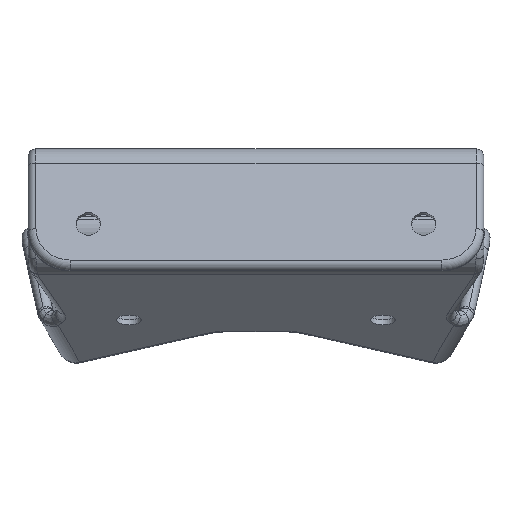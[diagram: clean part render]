
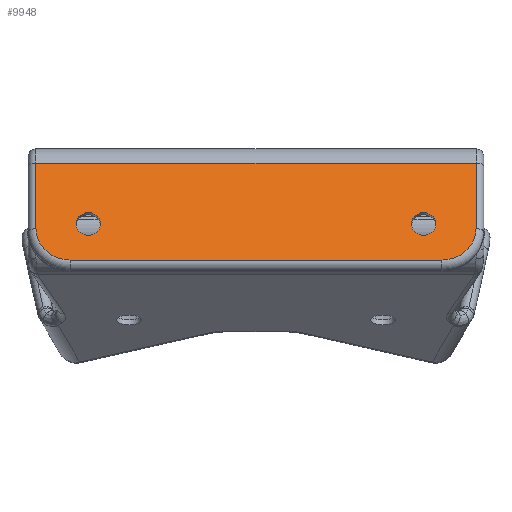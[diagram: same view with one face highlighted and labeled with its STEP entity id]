
A CAD part, top view. The second image highlights one B-rep face of the part: STEP entity #9948.
In plain terms, the highlighted planar face has unit normal (0, 0.391, 0.92).
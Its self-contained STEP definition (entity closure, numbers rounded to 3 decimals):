
#266 = FACE_BOUND ( 'NONE', #7578, .T. ) ;
#306 = VERTEX_POINT ( 'NONE', #4858 ) ;
#317 = LINE ( 'NONE', #11242, #10238 ) ;
#336 = EDGE_CURVE ( 'NONE', #2415, #3159, #4036, .T. ) ;
#1261 = FACE_OUTER_BOUND ( 'NONE', #6625, .T. ) ;
#1279 = ORIENTED_EDGE ( 'NONE', *, *, #6893, .T. ) ;
#1460 = EDGE_CURVE ( 'NONE', #306, #306, #10214, .T. ) ;
#2026 = DIRECTION ( 'NONE',  ( 0., 0.391, 0.921 ) ) ;
#2056 = VECTOR ( 'NONE', #11556, 1000. ) ;
#2301 = CARTESIAN_POINT ( 'NONE',  ( 0., -7.141, 108.17 ) ) ;
#2326 = VERTEX_POINT ( 'NONE', #3662 ) ;
#2415 = VERTEX_POINT ( 'NONE', #10171 ) ;
#2624 = DIRECTION ( 'NONE',  ( 0., 0.921, -0.391 ) ) ;
#2681 = CIRCLE ( 'NONE', #8979, 2.35 ) ;
#2917 = DIRECTION ( 'NONE',  ( 0., -0.391, -0.921 ) ) ;
#2952 = CARTESIAN_POINT ( 'NONE',  ( 35.5, -7.141, 108.17 ) ) ;
#3019 = ORIENTED_EDGE ( 'NONE', *, *, #8302, .T. ) ;
#3020 = VERTEX_POINT ( 'NONE', #10253 ) ;
#3159 = VERTEX_POINT ( 'NONE', #10554 ) ;
#3222 = CARTESIAN_POINT ( 'NONE',  ( -42., 11.347, 100.322 ) ) ;
#3610 = DIRECTION ( 'NONE',  ( 0., -0.391, -0.921 ) ) ;
#3662 = CARTESIAN_POINT ( 'NONE',  ( -35.5, -7.141, 108.17 ) ) ;
#3717 = CARTESIAN_POINT ( 'NONE',  ( -32., -0.237, 105.24 ) ) ;
#4036 = LINE ( 'NONE', #5247, #8481 ) ;
#4342 = EDGE_CURVE ( 'NONE', #3159, #4998, #9135, .T. ) ;
#4429 = ORIENTED_EDGE ( 'NONE', *, *, #336, .F. ) ;
#4684 = AXIS2_PLACEMENT_3D ( 'NONE', #4883, #2917, #11130 ) ;
#4697 = DIRECTION ( 'NONE',  ( 0., 0.921, -0.391 ) ) ;
#4858 = CARTESIAN_POINT ( 'NONE',  ( 32., 1.926, 104.321 ) ) ;
#4883 = CARTESIAN_POINT ( 'NONE',  ( 0., 37.815, 89.087 ) ) ;
#4998 = VERTEX_POINT ( 'NONE', #2952 ) ;
#5052 = ORIENTED_EDGE ( 'NONE', *, *, #4342, .F. ) ;
#5177 = LINE ( 'NONE', #10645, #2056 ) ;
#5247 = CARTESIAN_POINT ( 'NONE',  ( 42., -1.158, 105.63 ) ) ;
#5413 = ORIENTED_EDGE ( 'NONE', *, *, #11378, .T. ) ;
#5696 = EDGE_CURVE ( 'NONE', #8091, #2326, #9617, .T. ) ;
#5838 = VERTEX_POINT ( 'NONE', #3222 ) ;
#6541 = FACE_BOUND ( 'NONE', #7878, .T. ) ;
#6625 = EDGE_LOOP ( 'NONE', ( #11281, #9845, #5052, #4429, #1279, #5413 ) ) ;
#6661 = DIRECTION ( 'NONE',  ( -1., 0., 0. ) ) ;
#6747 = DIRECTION ( 'NONE',  ( 0., -0.391, -0.921 ) ) ;
#6893 = EDGE_CURVE ( 'NONE', #2415, #5838, #317, .T. ) ;
#7516 = AXIS2_PLACEMENT_3D ( 'NONE', #8362, #2026, #4697 ) ;
#7578 = EDGE_LOOP ( 'NONE', ( #3019 ) ) ;
#7878 = EDGE_LOOP ( 'NONE', ( #7942 ) ) ;
#7942 = ORIENTED_EDGE ( 'NONE', *, *, #1460, .F. ) ;
#8016 = AXIS2_PLACEMENT_3D ( 'NONE', #9508, #6747, #9441 ) ;
#8076 = DIRECTION ( 'NONE',  ( 0., -0.921, 0.391 ) ) ;
#8091 = VERTEX_POINT ( 'NONE', #8933 ) ;
#8233 = CARTESIAN_POINT ( 'NONE',  ( 32., -0.237, 105.24 ) ) ;
#8302 = EDGE_CURVE ( 'NONE', #3020, #3020, #2681, .T. ) ;
#8304 = AXIS2_PLACEMENT_3D ( 'NONE', #8233, #10756, #2624 ) ;
#8362 = CARTESIAN_POINT ( 'NONE',  ( -35.5, -1.158, 105.63 ) ) ;
#8481 = VECTOR ( 'NONE', #8076, 1000. ) ;
#8933 = CARTESIAN_POINT ( 'NONE',  ( -42., -1.158, 105.63 ) ) ;
#8979 = AXIS2_PLACEMENT_3D ( 'NONE', #3717, #3610, #10053 ) ;
#9135 = CIRCLE ( 'NONE', #8016, 6.5 ) ;
#9262 = PLANE ( 'NONE',  #4684 ) ;
#9441 = DIRECTION ( 'NONE',  ( 0., 0.921, -0.391 ) ) ;
#9508 = CARTESIAN_POINT ( 'NONE',  ( 35.5, -1.158, 105.63 ) ) ;
#9591 = DIRECTION ( 'NONE',  ( 1., 0., 0. ) ) ;
#9617 = CIRCLE ( 'NONE', #7516, 6.5 ) ;
#9710 = LINE ( 'NONE', #2301, #11025 ) ;
#9845 = ORIENTED_EDGE ( 'NONE', *, *, #10999, .T. ) ;
#9948 = ADVANCED_FACE ( 'NONE', ( #266, #1261, #6541 ), #9262, .F. ) ;
#10053 = DIRECTION ( 'NONE',  ( 0., 0.921, -0.391 ) ) ;
#10171 = CARTESIAN_POINT ( 'NONE',  ( 42., 11.347, 100.322 ) ) ;
#10214 = CIRCLE ( 'NONE', #8304, 2.35 ) ;
#10238 = VECTOR ( 'NONE', #6661, 1000. ) ;
#10253 = CARTESIAN_POINT ( 'NONE',  ( -32., 1.926, 104.321 ) ) ;
#10554 = CARTESIAN_POINT ( 'NONE',  ( 42., -1.158, 105.63 ) ) ;
#10645 = CARTESIAN_POINT ( 'NONE',  ( -42., -1.158, 105.63 ) ) ;
#10756 = DIRECTION ( 'NONE',  ( 0., 0.391, 0.921 ) ) ;
#10999 = EDGE_CURVE ( 'NONE', #2326, #4998, #9710, .T. ) ;
#11025 = VECTOR ( 'NONE', #9591, 1000. ) ;
#11130 = DIRECTION ( 'NONE',  ( 0., 0.921, -0.391 ) ) ;
#11242 = CARTESIAN_POINT ( 'NONE',  ( 0., 11.347, 100.322 ) ) ;
#11281 = ORIENTED_EDGE ( 'NONE', *, *, #5696, .T. ) ;
#11378 = EDGE_CURVE ( 'NONE', #5838, #8091, #5177, .T. ) ;
#11556 = DIRECTION ( 'NONE',  ( 0., -0.921, 0.391 ) ) ;
